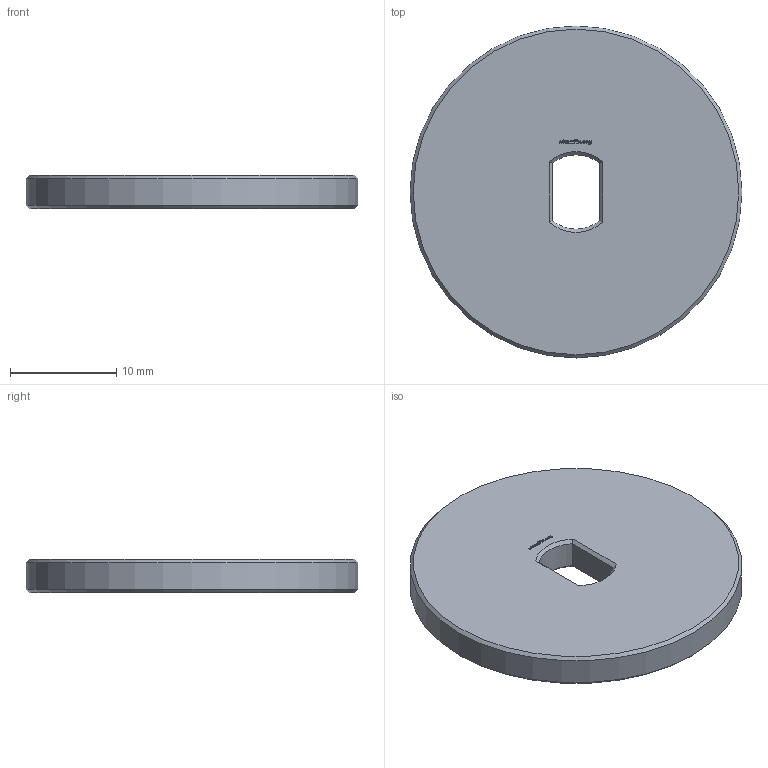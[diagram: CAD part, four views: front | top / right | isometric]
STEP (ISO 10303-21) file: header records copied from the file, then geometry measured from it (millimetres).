
FILE_DESCRIPTION(/* description */ (''),/* implementation_level */ '2;1');
FILE_NAME(/* name */ '/Users/paulokiefe/Desktop/STEMFIE/Fasteners/Washers/Fixed/Washer WSR FXD BU0.25x2.50 - SPN-WSR-0007 v1.step',/* time_stamp */ '2020-09-27T23:13:01+02:00',/* author */ (''),/* organization */ (''),/* preprocessor_version */ 'ST-DEVELOPER v18.1',/* originating_system */ 'Autodesk Translation Framework v9.3.0.1241',/* authorisation */ '');
FILE_SCHEMA (('AUTOMOTIVE_DESIGN { 1 0 10303 214 3 1 1 }'));
Length unit declared in the file: millimetre
Products named in the file (1): Washer WSR FXD BU0.25x2.50 - SPN-WSR-0007
Bounding box: 31.25 x 31.25 x 3.12 mm (x, y, z)
Volume: 2296.7 mm3; surface area: 1806.3 mm2
Topology: 1 solids, 1 shells, 261 faces, 731 edges, 484 vertices
Faces by surface type: plane 252, cone 6, cylinder 3
Full cylindrical faces by diameter (mm): 31.25 x1
Entity records: 8262 total; most frequent: CARTESIAN_POINT 1501, ORIENTED_EDGE 1462, DIRECTION 1259, EDGE_CURVE 731, LINE 711, VECTOR 711, VERTEX_POINT 484, EDGE_LOOP 275
